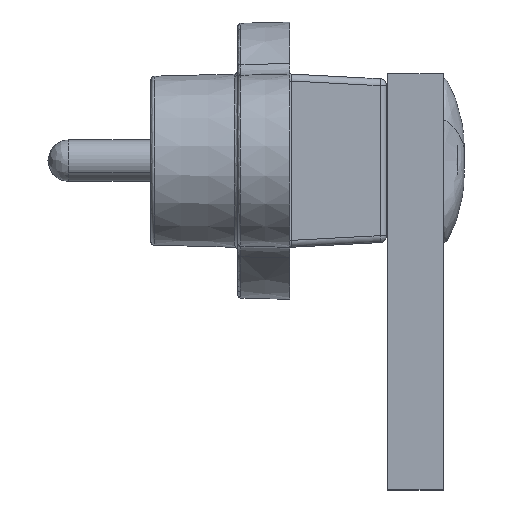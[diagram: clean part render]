
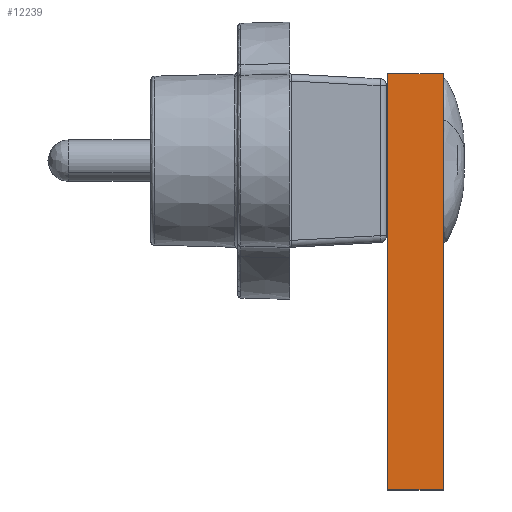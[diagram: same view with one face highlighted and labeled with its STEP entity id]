
A CAD part, left-side view. The second image highlights one B-rep face of the part: STEP entity #12239.
In plain terms, the highlighted planar face has unit normal (-1, 0, 0) as drawn and (1, 0, 0) by its records, which use the part's own axes.
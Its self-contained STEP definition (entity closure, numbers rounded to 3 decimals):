
#548 = AXIS2_PLACEMENT_3D ( 'NONE', #9954, #8024, #6102 ) ;
#893 = LINE ( 'NONE', #1005, #6583 ) ;
#898 = DIRECTION ( 'NONE',  ( 0., 0., 1. ) ) ;
#1005 = CARTESIAN_POINT ( 'NONE',  ( 3.5, 1.6, 6. ) ) ;
#1151 = DIRECTION ( 'NONE',  ( 0., 1., 0. ) ) ;
#1252 = CARTESIAN_POINT ( 'NONE',  ( 3.5, 1.6, 6. ) ) ;
#1685 = VERTEX_POINT ( 'NONE', #1798 ) ;
#1798 = CARTESIAN_POINT ( 'NONE',  ( 3.5, 1.6, 6. ) ) ;
#1943 = LINE ( 'NONE', #7110, #2019 ) ;
#2019 = VECTOR ( 'NONE', #898, 1000. ) ;
#2327 = EDGE_CURVE ( 'NONE', #12022, #6452, #6239, .T. ) ;
#2497 = EDGE_CURVE ( 'NONE', #1685, #6452, #893, .T. ) ;
#2831 = VERTEX_POINT ( 'NONE', #9476 ) ;
#2995 = DIRECTION ( 'NONE',  ( 0., 0., -1. ) ) ;
#3848 = PLANE ( 'NONE',  #548 ) ;
#3947 = CARTESIAN_POINT ( 'NONE',  ( 3.5, 1.6, -6. ) ) ;
#4557 = ORIENTED_EDGE ( 'NONE', *, *, #8203, .T. ) ;
#4882 = VECTOR ( 'NONE', #12090, 1000. ) ;
#6102 = DIRECTION ( 'NONE',  ( 0., 0., 1. ) ) ;
#6239 = LINE ( 'NONE', #6377, #10007 ) ;
#6377 = CARTESIAN_POINT ( 'NONE',  ( 3.5, 1.6, -6. ) ) ;
#6452 = VERTEX_POINT ( 'NONE', #3947 ) ;
#6583 = VECTOR ( 'NONE', #2995, 1000. ) ;
#7110 = CARTESIAN_POINT ( 'NONE',  ( 3.5, 0., 0. ) ) ;
#7814 = EDGE_LOOP ( 'NONE', ( #11322, #8475, #4557, #9704 ) ) ;
#8024 = DIRECTION ( 'NONE',  ( -1., 0., 0. ) ) ;
#8203 = EDGE_CURVE ( 'NONE', #1685, #2831, #9140, .T. ) ;
#8475 = ORIENTED_EDGE ( 'NONE', *, *, #2497, .F. ) ;
#9140 = LINE ( 'NONE', #1252, #4882 ) ;
#9476 = CARTESIAN_POINT ( 'NONE',  ( 3.5, 0., 6. ) ) ;
#9704 = ORIENTED_EDGE ( 'NONE', *, *, #12348, .F. ) ;
#9954 = CARTESIAN_POINT ( 'NONE',  ( 3.5, 1.6, 6. ) ) ;
#10007 = VECTOR ( 'NONE', #1151, 1000. ) ;
#11210 = CARTESIAN_POINT ( 'NONE',  ( 3.5, 0., -6. ) ) ;
#11322 = ORIENTED_EDGE ( 'NONE', *, *, #2327, .T. ) ;
#11604 = FACE_OUTER_BOUND ( 'NONE', #7814, .T. ) ;
#12022 = VERTEX_POINT ( 'NONE', #11210 ) ;
#12090 = DIRECTION ( 'NONE',  ( 0., -1., 0. ) ) ;
#12239 = ADVANCED_FACE ( 'NONE', ( #11604 ), #3848, .F. ) ;
#12348 = EDGE_CURVE ( 'NONE', #12022, #2831, #1943, .T. ) ;
